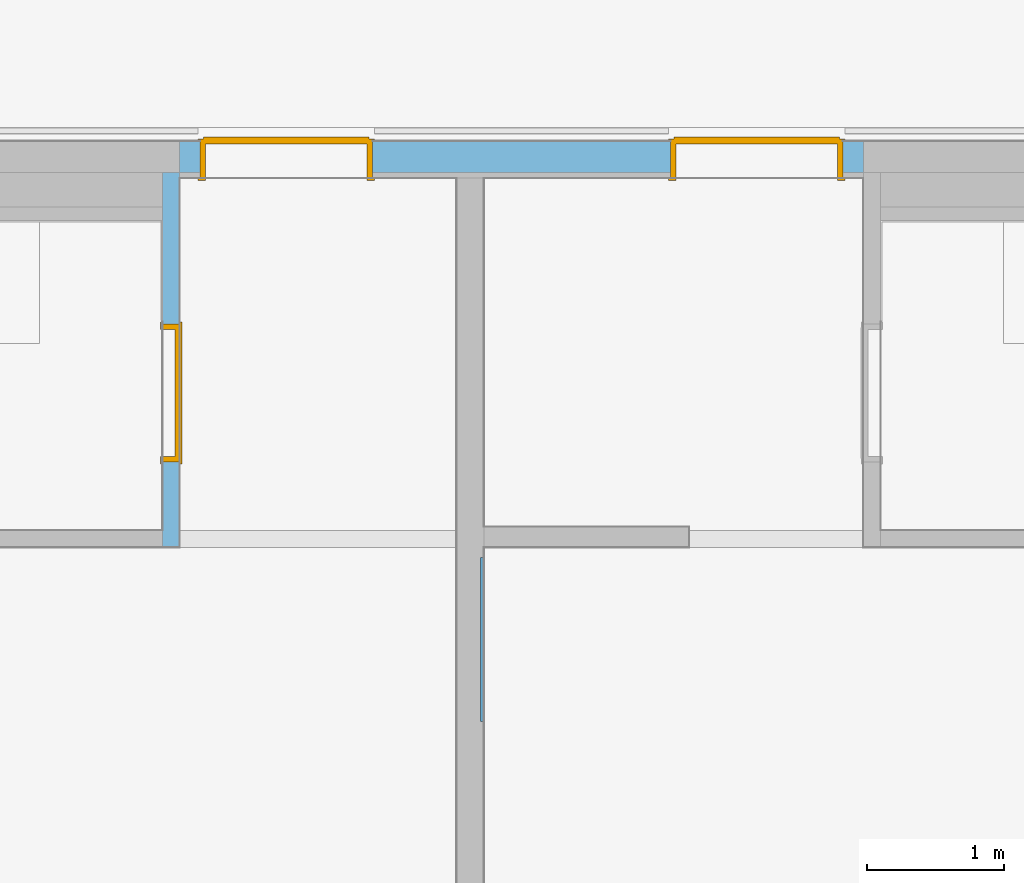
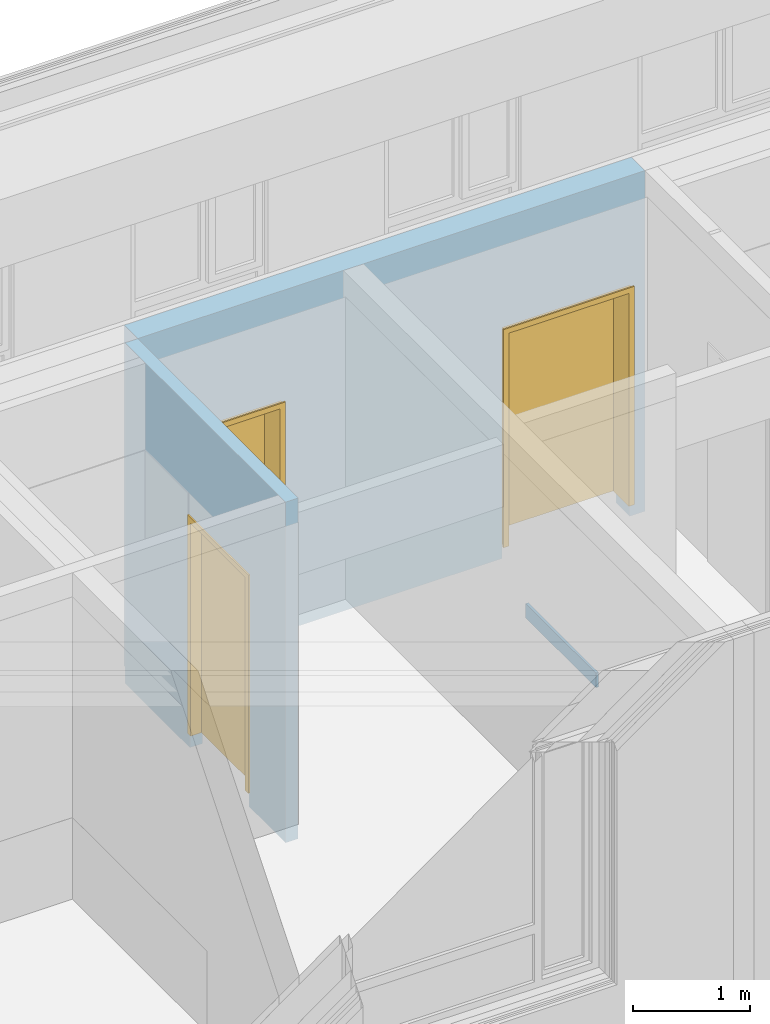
# One storey, part 63 of 222: 3 doors, 1 wall, 3 openings, plus 2 elements that do not belong to this part.
"""IFC4 building model written with IfcOpenShell, lengths in metres."""

from ifc_helpers import new_model, entity, si_unit, converted_unit, derived_unit, frame, frame_2d, origin, origin_with_axes, place, context, subcontext, project, spatial, polyline, rectangle, outline, extrude, faceted_brep, source, transform, mapped, material, type_object, element, fill, save


model = new_model("IFC4")

# Units and contexts
model_context = context("Model", 3, precision=1e-05, world=origin())
body_context = subcontext(model_context, "Body", "Model", "MODEL_VIEW")
ifc_project = project(units=[si_unit("LENGTHUNIT", "METRE"), si_unit("AREAUNIT", "SQUARE_METRE"), si_unit("VOLUMEUNIT", "CUBIC_METRE"), si_unit("MASSUNIT", "GRAM", prefix="KILO"), converted_unit("PLANEANGLEUNIT", "DEGREE", entity("IfcPlaneAngleMeasure", 0.0174532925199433), si_unit("PLANEANGLEUNIT", "RADIAN"), dimensions=[0, 0, 0, 0, 0, 0, 0]), derived_unit("THERMALTRANSMITTANCEUNIT", [(si_unit("POWERUNIT", "WATT"), 1), (si_unit("THERMODYNAMICTEMPERATUREUNIT", "KELVIN"), -1), (si_unit("LENGTHUNIT", "METRE"), -2)]), derived_unit("VOLUMETRICFLOWRATEUNIT", [(si_unit("LENGTHUNIT", "METRE"), 3), (converted_unit("TIMEUNIT", "hour", entity("IfcTimeMeasure", 3600.0), si_unit("TIMEUNIT", "SECOND"), dimensions=[0, 0, 1, 0, 0, 0, 0]), -1), (si_unit("LENGTHUNIT", "METRE"), -1)])], contexts=[model_context])

# Site, building, storey
site_placement = place(None, origin())
site = spatial("IfcSite", under=ifc_project, at=site_placement, Name="Psychiatrie Neubau Wunstorf", CompositionType="ELEMENT")
building_placement = place(site_placement, origin())
building = spatial("IfcBuilding", under=site, at=building_placement, Name="Neubau H2 Stationsgebäude", CompositionType="ELEMENT")
storey_placement = place(building_placement, frame((0.0, 0.0, 3.6)))
storey = spatial("IfcBuildingStorey", under=building, at=storey_placement, Name="H2 Ebene +1", CompositionType="ELEMENT", Elevation=3.6)

# Wall, opening, door
ifc_material_1 = material(Name="WI-LB")
wall_1_placement = place(storey_placement, frame((17.875, 1.35874963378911, 0.0), z_axis=(0.0, 0.0, 1.0), x_axis=(0.0, 1.0, 0.0)))
wall_1 = element("IfcWall", 1, at=wall_1_placement, inside=storey, material=ifc_material_1, context=body_context, shape_type="SweptSolid", body=[
    extrude(rectangle(XDim=2.73999999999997, YDim=0.125, at=frame_2d((1.36999999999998, 0.0625), x_axis=(1.0, 0.0))), origin_with_axes(), (0.0, 0.0, 1.0), 3.55),
])
opening_1_placement = place(wall_1_placement, frame((1.63500000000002, 0.125, 0.0), z_axis=(0.0, -1.0, 0.0), x_axis=(0.0, 0.0, 1.0)))
opening_1 = element("IfcOpeningElement", 2, at=opening_1_placement, cuts=wall_1, Name="Türöffnung", ObjectType="Opening", context=body_context, shape_type="SweptSolid", body=[
    extrude(outline(polyline([(2.41, 1.01), (2.41, 0.0), (0.0, 0.0), (0.0, 1.01), (2.41, 1.01)])), origin_with_axes(), (0.0, 0.0, 1.0), 0.125),
])
ifc_material_2 = material(Name="TI-1F-UZ-D-N")
door_type_1 = type_object("IfcDoorType", Name="SMT", OperationType="SINGLE_SWING_RIGHT", ParameterTakesPrecedence=False, PredefinedType="DOOR")
shared_shape_1 = source(origin_with_axes(), body_context, "Body", "Brep", [
    faceted_brep([(-0.0399999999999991, 0.0124999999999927, 0.0), (0.0, 0.0124999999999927, 0.0), (0.0, 0.112499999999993, 0.0), (-0.0399999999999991, 0.112499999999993, 0.0), (-0.0399999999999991, 0.112499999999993, 3.55), (0.0, 0.112499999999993, 3.55), (0.0, 0.0124999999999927, 3.55), (-0.0399999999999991, 0.0124999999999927, 3.55)], [[[0, 1, 2, 3]], [[4, 5, 6, 7]], [[3, 4, 7, 0]], [[2, 5, 4, 3]], [[1, 6, 5, 2]], [[0, 7, 6, 1]]], orient=[[False], [False], [False], [False], [False], [False]]),
    faceted_brep([(1.01, 0.0124999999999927, 0.0), (1.05, 0.0124999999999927, 0.0), (1.05, 0.112499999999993, 0.0), (1.01, 0.112499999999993, 0.0), (1.01, 0.112499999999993, 3.55), (1.05, 0.112499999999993, 3.55), (1.05, 0.0124999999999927, 3.55), (1.01, 0.0124999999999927, 3.55)], [[[0, 1, 2, 3]], [[4, 5, 6, 7]], [[3, 4, 7, 0]], [[2, 5, 4, 3]], [[1, 6, 5, 2]], [[0, 7, 6, 1]]], orient=[[False], [False], [False], [False], [False], [False]]),
    faceted_brep([(0.0, 0.0124999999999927, 2.41), (1.01, 0.0124999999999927, 2.41), (1.01, 0.112499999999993, 2.41), (0.0, 0.112499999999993, 2.41), (0.0, 0.112499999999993, 2.45), (1.01, 0.112499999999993, 2.45), (1.01, 0.0124999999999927, 2.45), (0.0, 0.0124999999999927, 2.45)], [[[0, 1, 2, 3]], [[4, 5, 6, 7]], [[3, 4, 7, 0]], [[2, 5, 4, 3]], [[1, 6, 5, 2]], [[0, 7, 6, 1]]], orient=[[False], [False], [False], [False], [False], [False]]),
])
shared_shape_2 = source(origin_with_axes(), body_context, "Body", "Brep", [
    faceted_brep([(0.0, -0.0150000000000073, 2.41), (0.0400000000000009, -0.0150000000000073, 2.41), (0.0400000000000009, -0.0150000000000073, 0.15), (0.0, -0.0150000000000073, 0.15), (0.0, 0.139999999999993, 0.15), (0.0400000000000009, 0.139999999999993, 0.15), (0.0400000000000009, 0.139999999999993, 2.41), (0.0, 0.139999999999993, 2.41)], [[[0, 1, 2, 3]], [[4, 5, 6, 7]], [[3, 4, 7, 0]], [[2, 5, 4, 3]], [[1, 6, 5, 2]], [[0, 7, 6, 1]]], orient=[[False], [False], [False], [False], [False], [False]]),
    faceted_brep([(0.0, -0.0150000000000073, 2.425), (0.0, -0.0150000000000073, 0.15), (-0.0149999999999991, -0.0150000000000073, 0.15), (-0.0149999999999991, -0.0150000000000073, 2.425), (0.0, 0.0, 0.15), (0.0, 0.0, 2.425), (-0.0149999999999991, 0.0, 2.425), (-0.0149999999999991, 0.0, 0.15)], [[[0, 1, 2, 3]], [[4, 5, 6, 7]], [[1, 0, 5, 4]], [[2, 1, 4, 7]], [[3, 2, 7, 6]], [[0, 3, 6, 5]]], orient=[[False], [False], [False], [False], [False], [False]]),
    faceted_brep([(0.0, 0.124999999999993, 2.425), (0.0, 0.124999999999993, 0.15), (-0.0149999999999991, 0.124999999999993, 0.15), (-0.0149999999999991, 0.124999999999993, 2.425), (0.0, 0.139999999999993, 0.15), (0.0, 0.139999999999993, 2.425), (-0.0149999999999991, 0.139999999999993, 2.425), (-0.0149999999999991, 0.139999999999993, 0.15)], [[[0, 1, 2, 3]], [[4, 5, 6, 7]], [[1, 0, 5, 4]], [[2, 1, 4, 7]], [[3, 2, 7, 6]], [[0, 3, 6, 5]]], orient=[[False], [False], [False], [False], [False], [False]]),
    faceted_brep([(0.970000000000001, -0.0150000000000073, 2.41), (1.01, -0.0150000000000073, 2.41), (1.01, -0.0150000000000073, 0.15), (0.970000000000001, -0.0150000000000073, 0.15), (0.970000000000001, 0.139999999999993, 0.15), (1.01, 0.139999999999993, 0.15), (1.01, 0.139999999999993, 2.41), (0.970000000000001, 0.139999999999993, 2.41)], [[[0, 1, 2, 3]], [[4, 5, 6, 7]], [[3, 4, 7, 0]], [[2, 5, 4, 3]], [[1, 6, 5, 2]], [[0, 7, 6, 1]]], orient=[[False], [False], [False], [False], [False], [False]]),
    faceted_brep([(1.01, -0.0150000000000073, 2.425), (1.025, -0.0150000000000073, 2.425), (1.025, -0.0150000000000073, 0.15), (1.01, -0.0150000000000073, 0.15), (1.01, 0.0, 0.15), (1.025, 0.0, 0.15), (1.025, 0.0, 2.425), (1.01, 0.0, 2.425)], [[[0, 1, 2, 3]], [[4, 5, 6, 7]], [[3, 4, 7, 0]], [[2, 5, 4, 3]], [[1, 6, 5, 2]], [[0, 7, 6, 1]]], orient=[[False], [False], [False], [False], [False], [False]]),
    faceted_brep([(1.01, 0.124999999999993, 2.425), (1.025, 0.124999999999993, 2.425), (1.025, 0.124999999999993, 0.15), (1.01, 0.124999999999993, 0.15), (1.01, 0.139999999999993, 0.15), (1.025, 0.139999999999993, 0.15), (1.025, 0.139999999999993, 2.425), (1.01, 0.139999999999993, 2.425)], [[[0, 1, 2, 3]], [[4, 5, 6, 7]], [[3, 4, 7, 0]], [[2, 5, 4, 3]], [[1, 6, 5, 2]], [[0, 7, 6, 1]]], orient=[[False], [False], [False], [False], [False], [False]]),
    faceted_brep([(0.0400000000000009, -0.0150000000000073, 2.41), (0.970000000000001, -0.0150000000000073, 2.41), (0.970000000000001, -0.0150000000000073, 2.37), (0.0400000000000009, -0.0150000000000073, 2.37), (0.0400000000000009, 0.139999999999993, 2.37), (0.970000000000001, 0.139999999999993, 2.37), (0.970000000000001, 0.139999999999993, 2.41), (0.0400000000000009, 0.139999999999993, 2.41)], [[[0, 1, 2, 3]], [[4, 5, 6, 7]], [[3, 4, 7, 0]], [[2, 5, 4, 3]], [[1, 6, 5, 2]], [[0, 7, 6, 1]]], orient=[[False], [False], [False], [False], [False], [False]]),
    faceted_brep([(0.0, -0.0150000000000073, 2.425), (1.01, -0.0150000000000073, 2.425), (1.01, -0.0150000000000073, 2.41), (0.0, -0.0150000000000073, 2.41), (0.0, 0.0, 2.41), (1.01, 0.0, 2.41), (1.01, 0.0, 2.425), (0.0, 0.0, 2.425)], [[[0, 1, 2, 3]], [[4, 5, 6, 7]], [[3, 4, 7, 0]], [[2, 5, 4, 3]], [[1, 6, 5, 2]], [[0, 7, 6, 1]]], orient=[[False], [False], [False], [False], [False], [False]]),
    faceted_brep([(0.0, 0.124999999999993, 2.425), (1.01, 0.124999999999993, 2.425), (1.01, 0.124999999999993, 2.41), (0.0, 0.124999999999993, 2.41), (0.0, 0.139999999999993, 2.41), (1.01, 0.139999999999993, 2.41), (1.01, 0.139999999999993, 2.425), (0.0, 0.139999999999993, 2.425)], [[[0, 1, 2, 3]], [[4, 5, 6, 7]], [[3, 4, 7, 0]], [[2, 5, 4, 3]], [[1, 6, 5, 2]], [[0, 7, 6, 1]]], orient=[[False], [False], [False], [False], [False], [False]]),
    faceted_brep([(0.0250000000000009, 0.0909999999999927, 2.385), (0.985, 0.0909999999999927, 2.385), (0.985, 0.0909999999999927, 0.15), (0.0250000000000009, 0.0909999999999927, 0.15), (0.0250000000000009, 0.140999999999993, 0.15), (0.985, 0.140999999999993, 0.15), (0.985, 0.140999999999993, 2.385), (0.0250000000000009, 0.140999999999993, 2.385)], [[[0, 1, 2, 3]], [[4, 5, 6, 7]], [[3, 4, 7, 0]], [[2, 5, 4, 3]], [[1, 6, 5, 2]], [[0, 7, 6, 1]]], orient=[[False], [False], [False], [False], [False], [False]]),
])
door_1_placement = place(opening_1_placement, frame((0.0, 0.0, 0.0), z_axis=(1.0, 0.0, 0.0), x_axis=(0.0, 1.0, 0.0)))
door_1 = element("IfcDoor", 3, at=door_1_placement, inside=storey, type_object=door_type_1, material=ifc_material_2, Name="SMT", OverallHeight=2.41, OverallWidth=1.01, context=body_context, shape_type="MappedRepresentation", body=[
    mapped(shared_shape_1, transform((0.0, 0.0, 0.0), x_axis=(1.0, 0.0, 0.0), y_axis=(0.0, 1.0, 0.0), z_axis=(0.0, 0.0, 1.0), scale=1.0)),
    mapped(shared_shape_2, transform((0.0, 0.0, 0.0), x_axis=(1.0, 0.0, 0.0), y_axis=(0.0, 1.0, 0.0), z_axis=(0.0, 0.0, 1.0), scale=1.0)),
])
fill(opening_1, door_1)

# Wall, openings, doors
ifc_material_3 = material(Name="WI-HW 60")
wall_2_placement = place(storey_placement, frame((22.875, 4.33074963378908, 0.0), z_axis=(0.0, 0.0, 1.0), x_axis=(-1.0, 1.09139364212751e-15, 0.0)))
wall_2 = element("IfcWall", 4, at=wall_2_placement, inside=storey, material=ifc_material_3, context=body_context, shape_type="SweptSolid", body=[
    extrude(rectangle(XDim=5.0, YDim=0.232, at=frame_2d((2.5, 0.116), x_axis=(1.0, 0.0))), origin_with_axes(), (0.0, 0.0, 1.0), 3.55),
])
opening_2_placement = place(wall_2_placement, frame((3.59, 0.0, 0.0), z_axis=(-1.960117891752e-15, 1.0, 0.0), x_axis=(0.0, 0.0, 1.0)))
opening_2 = element("IfcOpeningElement", 5, at=opening_2_placement, cuts=wall_2, Name="Türöffnung", ObjectType="Opening", context=body_context, shape_type="SweptSolid", body=[
    extrude(outline(polyline([(2.41, 1.26), (2.41, 0.0), (0.0, 0.0), (0.0, 1.26), (2.41, 1.26)])), origin_with_axes(), (0.0, 0.0, 1.0), 0.232),
])
opening_3_placement = place(wall_2_placement, frame((0.15, 0.0, 0.0), z_axis=(-1.1025663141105e-15, 1.0, 0.0), x_axis=(0.0, 0.0, 1.0)))
opening_3 = element("IfcOpeningElement", 6, at=opening_3_placement, cuts=wall_2, Name="Türöffnung", ObjectType="Opening", context=body_context, shape_type="SweptSolid", body=[
    extrude(outline(polyline([(2.41, 1.26), (2.41, 0.0), (0.0, 0.0), (0.0, 1.26), (2.41, 1.26)])), origin_with_axes(), (0.0, 0.0, 1.0), 0.232),
])
ifc_material_4 = material(Name="TI-2F-UZ-D")
door_type_2 = type_object("IfcDoorType", Name="SMT", OperationType="DOUBLE_DOOR_SINGLE_SWING", ParameterTakesPrecedence=False, PredefinedType="DOOR")
shared_shape_3 = source(origin_with_axes(), body_context, "Body", "Brep", [
    faceted_brep([(1.26, -0.0150000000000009, 2.41), (1.26, -0.0150000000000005, 0.15), (1.22, -0.0150000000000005, 0.15), (1.22, -0.0150000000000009, 2.41), (1.26, 0.287000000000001, 0.15), (1.26, 0.287000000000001, 2.41), (1.22, 0.287000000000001, 2.41), (1.22, 0.287000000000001, 0.15)], [[[0, 1, 2, 3]], [[4, 5, 6, 7]], [[1, 0, 5, 4]], [[2, 1, 4, 7]], [[3, 2, 7, 6]], [[0, 3, 6, 5]]], orient=[[False], [False], [False], [False], [False], [False]]),
    faceted_brep([(1.26, -0.0150000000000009, 2.425), (1.275, -0.0150000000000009, 2.425), (1.275, -0.0150000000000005, 0.15), (1.26, -0.0150000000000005, 0.15), (1.26, 0.0, 0.15), (1.275, 0.0, 0.15), (1.275, 0.0, 2.425), (1.26, 0.0, 2.425)], [[[0, 1, 2, 3]], [[4, 5, 6, 7]], [[3, 4, 7, 0]], [[2, 5, 4, 3]], [[1, 6, 5, 2]], [[0, 7, 6, 1]]], orient=[[False], [False], [False], [False], [False], [False]]),
    faceted_brep([(1.26, 0.272000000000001, 2.425), (1.275, 0.272000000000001, 2.425), (1.275, 0.272000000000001, 0.15), (1.26, 0.272000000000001, 0.15), (1.26, 0.287000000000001, 0.15), (1.275, 0.287000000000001, 0.15), (1.275, 0.287000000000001, 2.425), (1.26, 0.287000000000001, 2.425)], [[[0, 1, 2, 3]], [[4, 5, 6, 7]], [[3, 4, 7, 0]], [[2, 5, 4, 3]], [[1, 6, 5, 2]], [[0, 7, 6, 1]]], orient=[[False], [False], [False], [False], [False], [False]]),
    faceted_brep([(0.04, -0.0150000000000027, 2.41), (0.04, -0.0150000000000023, 0.15), (0.0, -0.0150000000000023, 0.15), (0.0, -0.0150000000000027, 2.41), (0.04, 0.286999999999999, 0.15), (0.04, 0.286999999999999, 2.41), (0.0, 0.286999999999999, 2.41), (0.0, 0.286999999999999, 0.15)], [[[0, 1, 2, 3]], [[4, 5, 6, 7]], [[1, 0, 5, 4]], [[2, 1, 4, 7]], [[3, 2, 7, 6]], [[0, 3, 6, 5]]], orient=[[False], [False], [False], [False], [False], [False]]),
    faceted_brep([(0.0, -0.0150000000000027, 2.425), (0.0, -0.0150000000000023, 0.15), (-0.015, -0.0150000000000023, 0.15), (-0.015, -0.0150000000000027, 2.425), (0.0, 0.0, 0.15), (0.0, 0.0, 2.425), (-0.015, 0.0, 2.425), (-0.015, 0.0, 0.15)], [[[0, 1, 2, 3]], [[4, 5, 6, 7]], [[1, 0, 5, 4]], [[2, 1, 4, 7]], [[3, 2, 7, 6]], [[0, 3, 6, 5]]], orient=[[False], [False], [False], [False], [False], [False]]),
    faceted_brep([(0.0, 0.271999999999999, 2.425), (0.0, 0.271999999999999, 0.15), (-0.015, 0.271999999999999, 0.15), (-0.015, 0.271999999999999, 2.425), (0.0, 0.286999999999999, 0.15), (0.0, 0.286999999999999, 2.425), (-0.015, 0.286999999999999, 2.425), (-0.015, 0.286999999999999, 0.15)], [[[0, 1, 2, 3]], [[4, 5, 6, 7]], [[1, 0, 5, 4]], [[2, 1, 4, 7]], [[3, 2, 7, 6]], [[0, 3, 6, 5]]], orient=[[False], [False], [False], [False], [False], [False]]),
    faceted_brep([(1.22, -0.0150000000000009, 2.41), (1.22, -0.0150000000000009, 2.37), (0.04, -0.0150000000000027, 2.37), (0.04, -0.0150000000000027, 2.41), (1.22, 0.287000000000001, 2.37), (1.22, 0.287000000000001, 2.41), (0.04, 0.286999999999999, 2.41), (0.04, 0.286999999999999, 2.37)], [[[0, 1, 2, 3]], [[4, 5, 6, 7]], [[1, 0, 5, 4]], [[2, 1, 4, 7]], [[3, 2, 7, 6]], [[0, 3, 6, 5]]], orient=[[False], [False], [False], [False], [False], [False]]),
    faceted_brep([(1.26, -0.0150000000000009, 2.425), (1.26, -0.0150000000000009, 2.41), (0.0, -0.0150000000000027, 2.41), (0.0, -0.0150000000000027, 2.425), (1.26, 0.0, 2.41), (1.26, 0.0, 2.425), (0.0, 0.0, 2.425), (0.0, 0.0, 2.41)], [[[0, 1, 2, 3]], [[4, 5, 6, 7]], [[1, 0, 5, 4]], [[2, 1, 4, 7]], [[3, 2, 7, 6]], [[0, 3, 6, 5]]], orient=[[False], [False], [False], [False], [False], [False]]),
    faceted_brep([(1.26, 0.272000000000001, 2.425), (1.26, 0.272000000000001, 2.41), (0.0, 0.271999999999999, 2.41), (0.0, 0.271999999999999, 2.425), (1.26, 0.287000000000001, 2.41), (1.26, 0.287000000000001, 2.425), (0.0, 0.286999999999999, 2.425), (0.0, 0.286999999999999, 2.41)], [[[0, 1, 2, 3]], [[4, 5, 6, 7]], [[1, 0, 5, 4]], [[2, 1, 4, 7]], [[3, 2, 7, 6]], [[0, 3, 6, 5]]], orient=[[False], [False], [False], [False], [False], [False]]),
    faceted_brep([(1.235, 0.252000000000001, 2.385), (1.235, 0.252000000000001, 0.15), (0.335, 0.251999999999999, 0.15), (0.335, 0.251999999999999, 2.385), (1.235, 0.302000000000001, 0.15), (1.235, 0.302000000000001, 2.385), (0.335, 0.301999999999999, 2.385), (0.335, 0.301999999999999, 0.15)], [[[0, 1, 2, 3]], [[4, 5, 6, 7]], [[1, 0, 5, 4]], [[2, 1, 4, 7]], [[3, 2, 7, 6]], [[0, 3, 6, 5]]], orient=[[False], [False], [False], [False], [False], [False]]),
    faceted_brep([(0.334, 0.251999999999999, 2.385), (0.334, 0.251999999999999, 0.15), (0.025, 0.251999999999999, 0.15), (0.025, 0.251999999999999, 2.385), (0.334, 0.301999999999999, 0.15), (0.334, 0.301999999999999, 2.385), (0.025, 0.301999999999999, 2.385), (0.025, 0.301999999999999, 0.15)], [[[0, 1, 2, 3]], [[4, 5, 6, 7]], [[1, 0, 5, 4]], [[2, 1, 4, 7]], [[3, 2, 7, 6]], [[0, 3, 6, 5]]], orient=[[False], [False], [False], [False], [False], [False]]),
])
door_2_placement = place(opening_2_placement, frame((0.0, 1.26, 0.271999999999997), z_axis=(1.0, 0.0, 0.0), x_axis=(0.0, -1.0, 2.31236663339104e-15)))
door_2 = element("IfcDoor", 7, at=door_2_placement, inside=storey, type_object=door_type_2, material=ifc_material_4, Name="SMT", OverallHeight=2.41, OverallWidth=1.26, context=body_context, shape_type="MappedRepresentation", body=[
    mapped(shared_shape_3, transform((0.0, 0.0, 0.0), x_axis=(1.0, 0.0, 0.0), y_axis=(0.0, 1.0, 0.0), z_axis=(0.0, 0.0, 1.0), scale=1.0)),
])
fill(opening_2, door_2)
ifc_material_5 = material(Name="TI-2F-UZ-D")
door_type_3 = type_object("IfcDoorType", Name="SMT", OperationType="DOUBLE_DOOR_SINGLE_SWING", ParameterTakesPrecedence=False, PredefinedType="DOOR")
shared_shape_4 = source(origin_with_axes(), body_context, "Body", "Brep", [
    faceted_brep([(0.0, -0.0150000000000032, 2.41), (0.04, -0.0150000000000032, 2.41), (0.04, -0.0150000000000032, 0.15), (0.0, -0.0150000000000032, 0.15), (0.0, 0.287, 0.15), (0.04, 0.287, 0.15), (0.04, 0.287, 2.41), (0.0, 0.287, 2.41)], [[[0, 1, 2, 3]], [[4, 5, 6, 7]], [[3, 4, 7, 0]], [[2, 5, 4, 3]], [[1, 6, 5, 2]], [[0, 7, 6, 1]]], orient=[[False], [False], [False], [False], [False], [False]]),
    faceted_brep([(0.0, -0.0150000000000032, 2.425), (0.0, -0.0150000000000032, 0.15), (-0.015, -0.0150000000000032, 0.15), (-0.015, -0.0150000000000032, 2.425), (0.0, 0.0, 0.15), (0.0, 0.0, 2.425), (-0.015, 0.0, 2.425), (-0.015, 0.0, 0.15)], [[[0, 1, 2, 3]], [[4, 5, 6, 7]], [[1, 0, 5, 4]], [[2, 1, 4, 7]], [[3, 2, 7, 6]], [[0, 3, 6, 5]]], orient=[[False], [False], [False], [False], [False], [False]]),
    faceted_brep([(0.0, 0.272, 2.425), (0.0, 0.272, 0.15), (-0.015, 0.272, 0.15), (-0.015, 0.272, 2.425), (0.0, 0.287, 0.15), (0.0, 0.287, 2.425), (-0.015, 0.287, 2.425), (-0.015, 0.287, 0.15)], [[[0, 1, 2, 3]], [[4, 5, 6, 7]], [[1, 0, 5, 4]], [[2, 1, 4, 7]], [[3, 2, 7, 6]], [[0, 3, 6, 5]]], orient=[[False], [False], [False], [False], [False], [False]]),
    faceted_brep([(1.22, -0.0150000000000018, 2.41), (1.26, -0.0150000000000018, 2.41), (1.26, -0.0150000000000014, 0.15), (1.22, -0.0150000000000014, 0.15), (1.22, 0.287000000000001, 0.15), (1.26, 0.287000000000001, 0.15), (1.26, 0.287000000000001, 2.41), (1.22, 0.287000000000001, 2.41)], [[[0, 1, 2, 3]], [[4, 5, 6, 7]], [[3, 4, 7, 0]], [[2, 5, 4, 3]], [[1, 6, 5, 2]], [[0, 7, 6, 1]]], orient=[[False], [False], [False], [False], [False], [False]]),
    faceted_brep([(1.26, -0.0150000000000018, 2.425), (1.275, -0.0150000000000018, 2.425), (1.275, -0.0150000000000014, 0.15), (1.26, -0.0150000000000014, 0.15), (1.26, 0.0, 0.15), (1.275, 0.0, 0.15), (1.275, 0.0, 2.425), (1.26, 0.0, 2.425)], [[[0, 1, 2, 3]], [[4, 5, 6, 7]], [[3, 4, 7, 0]], [[2, 5, 4, 3]], [[1, 6, 5, 2]], [[0, 7, 6, 1]]], orient=[[False], [False], [False], [False], [False], [False]]),
    faceted_brep([(1.26, 0.272, 2.425), (1.275, 0.272, 2.425), (1.275, 0.272000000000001, 0.15), (1.26, 0.272000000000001, 0.15), (1.26, 0.287000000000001, 0.15), (1.275, 0.287000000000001, 0.15), (1.275, 0.287000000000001, 2.425), (1.26, 0.287000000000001, 2.425)], [[[0, 1, 2, 3]], [[4, 5, 6, 7]], [[3, 4, 7, 0]], [[2, 5, 4, 3]], [[1, 6, 5, 2]], [[0, 7, 6, 1]]], orient=[[False], [False], [False], [False], [False], [False]]),
    faceted_brep([(0.04, -0.0150000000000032, 2.41), (1.22, -0.0150000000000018, 2.41), (1.22, -0.0150000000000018, 2.37), (0.04, -0.0150000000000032, 2.37), (0.04, 0.287, 2.37), (1.22, 0.287000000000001, 2.37), (1.22, 0.287000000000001, 2.41), (0.04, 0.287, 2.41)], [[[0, 1, 2, 3]], [[4, 5, 6, 7]], [[3, 4, 7, 0]], [[2, 5, 4, 3]], [[1, 6, 5, 2]], [[0, 7, 6, 1]]], orient=[[False], [False], [False], [False], [False], [False]]),
    faceted_brep([(0.0, -0.0150000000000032, 2.425), (1.26, -0.0150000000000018, 2.425), (1.26, -0.0150000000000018, 2.41), (0.0, -0.0150000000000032, 2.41), (0.0, 0.0, 2.41), (1.26, 0.0, 2.41), (1.26, 0.0, 2.425), (0.0, 0.0, 2.425)], [[[0, 1, 2, 3]], [[4, 5, 6, 7]], [[3, 4, 7, 0]], [[2, 5, 4, 3]], [[1, 6, 5, 2]], [[0, 7, 6, 1]]], orient=[[False], [False], [False], [False], [False], [False]]),
    faceted_brep([(0.0, 0.272, 2.425), (1.26, 0.272, 2.425), (1.26, 0.272, 2.41), (0.0, 0.272, 2.41), (0.0, 0.287, 2.41), (1.26, 0.287000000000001, 2.41), (1.26, 0.287000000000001, 2.425), (0.0, 0.287, 2.425)], [[[0, 1, 2, 3]], [[4, 5, 6, 7]], [[3, 4, 7, 0]], [[2, 5, 4, 3]], [[1, 6, 5, 2]], [[0, 7, 6, 1]]], orient=[[False], [False], [False], [False], [False], [False]]),
    faceted_brep([(0.025, 0.252, 2.385), (0.925, 0.252, 2.385), (0.925, 0.252000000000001, 0.15), (0.025, 0.252, 0.15), (0.025, 0.302, 0.15), (0.925, 0.302000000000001, 0.15), (0.925, 0.302000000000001, 2.385), (0.025, 0.302, 2.385)], [[[0, 1, 2, 3]], [[4, 5, 6, 7]], [[3, 4, 7, 0]], [[2, 5, 4, 3]], [[1, 6, 5, 2]], [[0, 7, 6, 1]]], orient=[[False], [False], [False], [False], [False], [False]]),
    faceted_brep([(0.926, 0.252, 2.385), (1.235, 0.252, 2.385), (1.235, 0.252000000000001, 0.15), (0.926, 0.252000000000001, 0.15), (0.926, 0.302000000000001, 0.15), (1.235, 0.302000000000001, 0.15), (1.235, 0.302000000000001, 2.385), (0.926, 0.302000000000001, 2.385)], [[[0, 1, 2, 3]], [[4, 5, 6, 7]], [[3, 4, 7, 0]], [[2, 5, 4, 3]], [[1, 6, 5, 2]], [[0, 7, 6, 1]]], orient=[[False], [False], [False], [False], [False], [False]]),
])
door_3_placement = place(opening_3_placement, frame((0.0, 1.26, 0.271999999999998), z_axis=(1.0, 0.0, 0.0), x_axis=(0.0, -1.0, 1.45481505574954e-15)))
door_3 = element("IfcDoor", 8, at=door_3_placement, inside=storey, type_object=door_type_3, material=ifc_material_5, Name="SMT", OverallHeight=2.41, OverallWidth=1.26, context=body_context, shape_type="MappedRepresentation", body=[
    mapped(shared_shape_4, transform((0.0, 0.0, 0.0), x_axis=(1.0, 0.0, 0.0), y_axis=(0.0, 1.0, 0.0), z_axis=(0.0, 0.0, 1.0), scale=1.0)),
])
fill(opening_3, door_3)

# Wall
wall_3_placement = place(storey_placement, frame((20.075, 0.0854496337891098, 1.575)))
element("IfcWall", 9, at=wall_3_placement, inside=storey, Name="WV 1.1", context=body_context, shape_type="Brep", body=[
    faceted_brep([(0.025, 1.2, 0.0), (0.0, 1.2, 0.0), (0.0, 0.0, 0.0), (0.025, 0.0, 0.0), (0.0, 1.2, 0.15), (0.025, 1.2, 0.15), (0.025, 0.0, 0.15), (0.0, 0.0, 0.15)], [[[0, 1, 2, 3]], [[4, 5, 6, 7]], [[1, 0, 5, 4]], [[2, 1, 4, 7]], [[3, 2, 7, 6]], [[0, 3, 6, 5]]], orient=[[False], [False], [False], [False], [False], [False]]),
])

save(model, "model.ifc")
